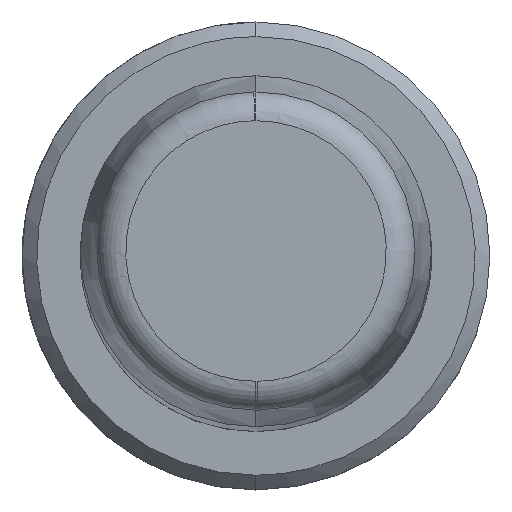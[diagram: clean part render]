
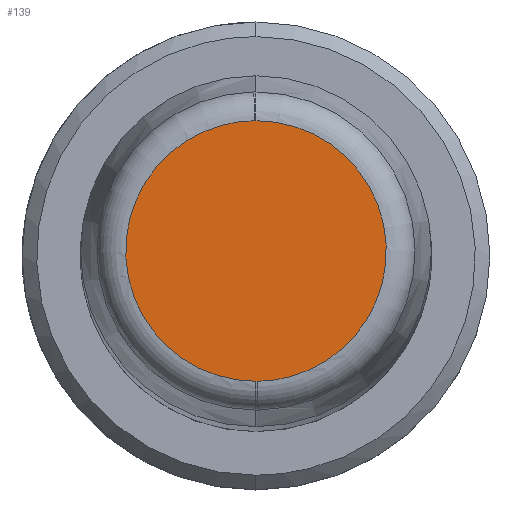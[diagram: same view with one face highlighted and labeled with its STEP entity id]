
A CAD part, top view. The second image highlights one B-rep face of the part: STEP entity #139.
In plain terms, the highlighted planar face has unit normal (0, 0, 1).
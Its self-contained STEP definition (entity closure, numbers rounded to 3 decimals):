
#52=CARTESIAN_POINT('Axis2P3D Location',(0.,0.,100.)) ;
#58=CARTESIAN_POINT('Control Point',(0.058,-4.455,100.)) ;
#59=CARTESIAN_POINT('Control Point',(0.047,-4.455,100.)) ;
#60=CARTESIAN_POINT('Control Point',(0.035,-4.455,100.)) ;
#61=CARTESIAN_POINT('Control Point',(0.023,-4.456,100.)) ;
#62=CARTESIAN_POINT('Control Point',(0.012,-4.456,100.)) ;
#63=CARTESIAN_POINT('Control Point',(0.,-4.456,100.)) ;
#64=CARTESIAN_POINT('Vertex',(0.058,-4.455,100.)) ;
#66=CARTESIAN_POINT('Vertex',(0.,-4.456,100.)) ;
#70=CARTESIAN_POINT('Control Point',(0.,4.456,100.)) ;
#71=CARTESIAN_POINT('Control Point',(0.414,4.456,100.)) ;
#72=CARTESIAN_POINT('Control Point',(0.827,4.408,100.)) ;
#73=CARTESIAN_POINT('Control Point',(1.233,4.312,100.)) ;
#74=CARTESIAN_POINT('Control Point',(2.016,4.027,100.)) ;
#75=CARTESIAN_POINT('Control Point',(2.713,3.571,100.)) ;
#76=CARTESIAN_POINT('Control Point',(3.033,3.303,100.)) ;
#77=CARTESIAN_POINT('Control Point',(3.606,2.698,100.)) ;
#78=CARTESIAN_POINT('Control Point',(4.025,1.978,100.)) ;
#79=CARTESIAN_POINT('Control Point',(4.191,1.596,100.)) ;
#80=CARTESIAN_POINT('Control Point',(4.432,0.799,100.)) ;
#81=CARTESIAN_POINT('Control Point',(4.484,-0.033,100.)) ;
#82=CARTESIAN_POINT('Control Point',(4.462,-0.449,100.)) ;
#83=CARTESIAN_POINT('Control Point',(4.321,-1.27,100.)) ;
#84=CARTESIAN_POINT('Control Point',(3.995,-2.037,100.)) ;
#85=CARTESIAN_POINT('Control Point',(3.789,-2.399,100.)) ;
#86=CARTESIAN_POINT('Control Point',(3.295,-3.07,100.)) ;
#87=CARTESIAN_POINT('Control Point',(2.661,-3.61,100.)) ;
#88=CARTESIAN_POINT('Control Point',(2.314,-3.842,100.)) ;
#89=CARTESIAN_POINT('Control Point',(1.668,-4.171,100.)) ;
#90=CARTESIAN_POINT('Control Point',(0.972,-4.364,100.)) ;
#91=CARTESIAN_POINT('Control Point',(0.67,-4.421,100.)) ;
#92=CARTESIAN_POINT('Control Point',(0.364,-4.451,100.)) ;
#93=CARTESIAN_POINT('Control Point',(0.058,-4.455,100.)) ;
#94=CARTESIAN_POINT('Vertex',(0.,4.456,100.)) ;
#98=CARTESIAN_POINT('Control Point',(-0.058,4.455,100.)) ;
#99=CARTESIAN_POINT('Control Point',(-0.047,4.455,100.)) ;
#100=CARTESIAN_POINT('Control Point',(-0.035,4.455,100.)) ;
#101=CARTESIAN_POINT('Control Point',(-0.023,4.456,100.)) ;
#102=CARTESIAN_POINT('Control Point',(-0.012,4.456,100.)) ;
#103=CARTESIAN_POINT('Control Point',(0.,4.456,100.)) ;
#104=CARTESIAN_POINT('Vertex',(-0.058,4.455,100.)) ;
#108=CARTESIAN_POINT('Control Point',(0.,-4.456,100.)) ;
#109=CARTESIAN_POINT('Control Point',(-0.414,-4.456,100.)) ;
#110=CARTESIAN_POINT('Control Point',(-0.827,-4.408,100.)) ;
#111=CARTESIAN_POINT('Control Point',(-1.233,-4.312,100.)) ;
#112=CARTESIAN_POINT('Control Point',(-2.016,-4.027,100.)) ;
#113=CARTESIAN_POINT('Control Point',(-2.713,-3.571,100.)) ;
#114=CARTESIAN_POINT('Control Point',(-3.033,-3.303,100.)) ;
#115=CARTESIAN_POINT('Control Point',(-3.606,-2.698,100.)) ;
#116=CARTESIAN_POINT('Control Point',(-4.025,-1.978,100.)) ;
#117=CARTESIAN_POINT('Control Point',(-4.191,-1.596,100.)) ;
#118=CARTESIAN_POINT('Control Point',(-4.432,-0.799,100.)) ;
#119=CARTESIAN_POINT('Control Point',(-4.484,0.033,100.)) ;
#120=CARTESIAN_POINT('Control Point',(-4.462,0.449,100.)) ;
#121=CARTESIAN_POINT('Control Point',(-4.321,1.27,100.)) ;
#122=CARTESIAN_POINT('Control Point',(-3.995,2.037,100.)) ;
#123=CARTESIAN_POINT('Control Point',(-3.789,2.399,100.)) ;
#124=CARTESIAN_POINT('Control Point',(-3.295,3.07,100.)) ;
#125=CARTESIAN_POINT('Control Point',(-2.661,3.61,100.)) ;
#126=CARTESIAN_POINT('Control Point',(-2.314,3.842,100.)) ;
#127=CARTESIAN_POINT('Control Point',(-1.668,4.171,100.)) ;
#128=CARTESIAN_POINT('Control Point',(-0.972,4.364,100.)) ;
#129=CARTESIAN_POINT('Control Point',(-0.67,4.421,100.)) ;
#130=CARTESIAN_POINT('Control Point',(-0.364,4.451,100.)) ;
#131=CARTESIAN_POINT('Control Point',(-0.058,4.455,100.)) ;
#53=DIRECTION('Axis2P3D Direction',(0.,0.,1.)) ;
#54=DIRECTION('Axis2P3D XDirection',(0.,-1.,0.)) ;
#55=AXIS2_PLACEMENT_3D('Plane Axis2P3D',#52,#53,#54) ;
#134=ORIENTED_EDGE('',*,*,#68,.F.) ;
#135=ORIENTED_EDGE('',*,*,#96,.F.) ;
#136=ORIENTED_EDGE('',*,*,#106,.F.) ;
#137=ORIENTED_EDGE('',*,*,#132,.F.) ;
#139=ADVANCED_FACE('MANIFOLD_SOLID_BREP #450',(#138),#56,.T.) ;
#57=B_SPLINE_CURVE_WITH_KNOTS('',5,(#58,#59,#60,#61,#62,#63),.UNSPECIFIED.,.F.,.U.,(6,6),(19.713,19.796),.UNSPECIFIED.) ;
#69=B_SPLINE_CURVE_WITH_KNOTS('',5,(#70,#71,#72,#73,#74,#75,#76,#77,#78,#79,#80,#81,#82,#83,#84,#85,#86,#87,#88,#89,#90,#91,#92,#93),.UNSPECIFIED.,.F.,.U.,(6,3,3,3,3,3,3,6),(0.,2.925,5.85,8.774,11.699,14.624,17.549,19.713),.UNSPECIFIED.) ;
#97=B_SPLINE_CURVE_WITH_KNOTS('',5,(#98,#99,#100,#101,#102,#103),.UNSPECIFIED.,.F.,.U.,(6,6),(19.713,19.796),.UNSPECIFIED.) ;
#107=B_SPLINE_CURVE_WITH_KNOTS('',5,(#108,#109,#110,#111,#112,#113,#114,#115,#116,#117,#118,#119,#120,#121,#122,#123,#124,#125,#126,#127,#128,#129,#130,#131),.UNSPECIFIED.,.F.,.U.,(6,3,3,3,3,3,3,6),(0.,2.925,5.85,8.774,11.699,14.624,17.549,19.713),.UNSPECIFIED.) ;
#68=EDGE_CURVE('',#65,#67,#57,.T.) ;
#96=EDGE_CURVE('',#95,#65,#69,.T.) ;
#106=EDGE_CURVE('',#105,#95,#97,.T.) ;
#132=EDGE_CURVE('',#67,#105,#107,.T.) ;
#133=EDGE_LOOP('',(#134,#135,#136,#137)) ;
#138=FACE_OUTER_BOUND('',#133,.T.) ;
#56=PLANE('Plane',#55) ;
#65=VERTEX_POINT('',#64) ;
#67=VERTEX_POINT('',#66) ;
#95=VERTEX_POINT('',#94) ;
#105=VERTEX_POINT('',#104) ;
